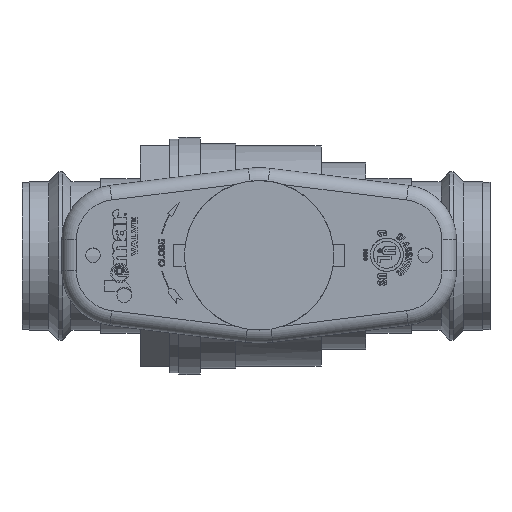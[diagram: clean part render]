
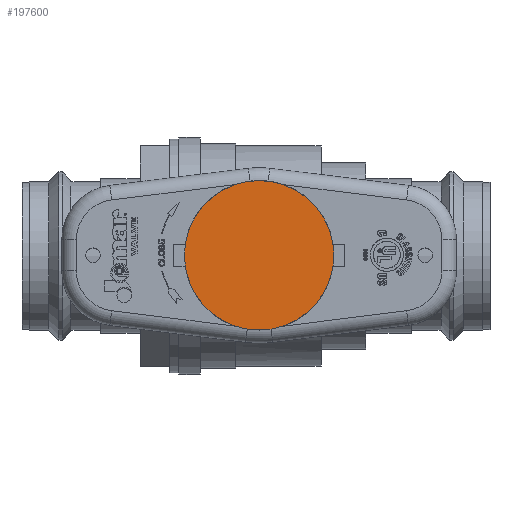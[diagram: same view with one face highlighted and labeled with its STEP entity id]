
A CAD part, top view. The second image highlights one B-rep face of the part: STEP entity #197600.
In plain terms, the highlighted planar face has unit normal (0, 0, 1).
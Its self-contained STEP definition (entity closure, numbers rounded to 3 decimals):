
#197392 = CYLINDRICAL_SURFACE('',#197393,0.767);
#197393 = AXIS2_PLACEMENT_3D('',#197394,#197395,#197396);
#197394 = CARTESIAN_POINT('',(2.432,0.,
    4.145));
#197395 = DIRECTION('',(0.,0.,-1.));
#197396 = DIRECTION('',(0.,-1.,0.));
#197467 = VERTEX_POINT('',#197468);
#197468 = CARTESIAN_POINT('',(2.432,-0.767,
    4.145));
#197488 = EDGE_CURVE('',#197467,#197467,#197489,.T.);
#197489 = SURFACE_CURVE('',#197490,(#197495,#197502),.PCURVE_S1.);
#197490 = CIRCLE('',#197491,0.767);
#197491 = AXIS2_PLACEMENT_3D('',#197492,#197493,#197494);
#197492 = CARTESIAN_POINT('',(2.432,0.,
    4.145));
#197493 = DIRECTION('',(0.,0.,1.));
#197494 = DIRECTION('',(0.,-1.,0.));
#197495 = PCURVE('',#197392,#197496);
#197496 = DEFINITIONAL_REPRESENTATION('',(#197497),#197501);
#197497 = LINE('',#197498,#197499);
#197498 = CARTESIAN_POINT('',(6.283,0.));
#197499 = VECTOR('',#197500,1.);
#197500 = DIRECTION('',(-1.,0.));
#197501 = ( GEOMETRIC_REPRESENTATION_CONTEXT(2) 
PARAMETRIC_REPRESENTATION_CONTEXT() REPRESENTATION_CONTEXT('2D SPACE',''
  ) );
#197502 = PCURVE('',#197503,#197508);
#197503 = PLANE('',#197504);
#197504 = AXIS2_PLACEMENT_3D('',#197505,#197506,#197507);
#197505 = CARTESIAN_POINT('',(2.432,0.,
    4.145));
#197506 = DIRECTION('',(0.,0.,1.));
#197507 = DIRECTION('',(0.,-1.,0.));
#197508 = DEFINITIONAL_REPRESENTATION('',(#197509),#197513);
#197509 = CIRCLE('',#197510,0.767);
#197510 = AXIS2_PLACEMENT_2D('',#197511,#197512);
#197511 = CARTESIAN_POINT('',(0.,0.));
#197512 = DIRECTION('',(1.,0.));
#197513 = ( GEOMETRIC_REPRESENTATION_CONTEXT(2) 
PARAMETRIC_REPRESENTATION_CONTEXT() REPRESENTATION_CONTEXT('2D SPACE',''
  ) );
#197600 = ADVANCED_FACE('',(#197601),#197503,.T.);
#197601 = FACE_BOUND('',#197602,.T.);
#197602 = EDGE_LOOP('',(#197603));
#197603 = ORIENTED_EDGE('',*,*,#197488,.T.);
